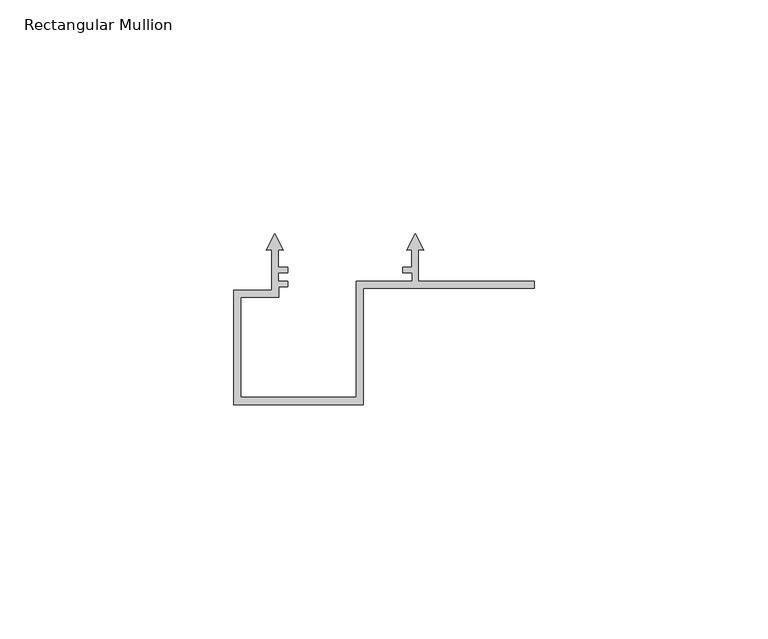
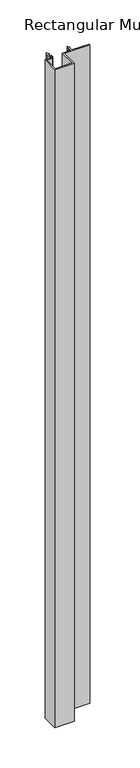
"""IFC4 building model written with IfcOpenShell, lengths in millimetres: member geometry, Rectangular Mullion : Renson_Linarte_LA-B25-01."""

from ifc_helpers import new_model, si_unit, frame, origin, place, context, project, spatial, polyline, outline, extrude, source, transform, mapped, element, save


def rectangular_mullion_b2541346(model_context):
    return source(origin(), model_context, "Body", "SweptSolid", [
        extrude(outline(polyline([(-36.6500002, -61.6), (-64.3500002, -61.6), (-64.3500002, -37.0995654), (-56.2091809, -37.0995654), (-56.2091809, -28.5038205), (-57.3249174, -28.6014348), (-55.5091808, -25.0378474), (-53.6934442, -28.6014348), (-54.8091807, -28.5038206), (-54.8091807, -32.198351), (-52.8216175, -32.198351), (-52.8216175, -33.4004386), (-54.8, -33.4004386), (-54.8, -35.1999954), (-52.8211027, -35.1999954), (-52.8211027, -36.4015214), (-54.6997126, -36.4015214), (-54.6997126, -38.5997951), (-62.8500002, -38.5997951), (-62.8500002, -60.0999997), (-38.1500002, -60.0999997), (-38.1500002, -35.1999997), (-26.1000012, -35.1999997), (-26.1000012, -33.4008281), (-28.1922643, -33.4008281), (-28.1922643, -32.1999997), (-26.2000002, -32.1999997), (-26.2000002, -28.5038204), (-27.315738, -28.6014348), (-25.5000014, -25.0378474), (-23.6842647, -28.6014348), (-24.8, -28.5038207), (-24.8, -35.2056679), (0.0, -35.2056679), (0.0, -36.7004291), (-36.6500002, -36.7004291), (-36.6500002, -61.6)])), frame((0.0, 0.0, -1000.0), z_axis=(0.0, 0.0, 1.0), x_axis=(1.0, 0.0, 0.0)), (0.0, 0.0, 1.0), 1000.0),
    ])


if __name__ == "__main__":
    model = new_model("IFC4")
    model_context = context("Model", 3, world=origin())
    ifc_project = project(units=[si_unit("LENGTHUNIT", "METRE", prefix="MILLI")], contexts=[model_context])
    site = spatial("IfcSite", under=ifc_project)
    building = spatial("IfcBuilding", under=site)
    placement = place(None, origin())
    rectangular_mullion_shape = rectangular_mullion_b2541346(model_context)
    element("IfcMember", 1, ObjectType="Rectangular Mullion : Renson_Linarte_LA-B25-01", at=placement, inside=building, context=model_context, shape_type="MappedRepresentation", body=[
        mapped(rectangular_mullion_shape, transform((0.0, 0.0, 0.0), x_axis=(1.0, 0.0, 0.0), y_axis=(0.0, 1.0, 0.0), z_axis=(0.0, 0.0, 1.0))),
    ])
    save(model, "model.ifc")
